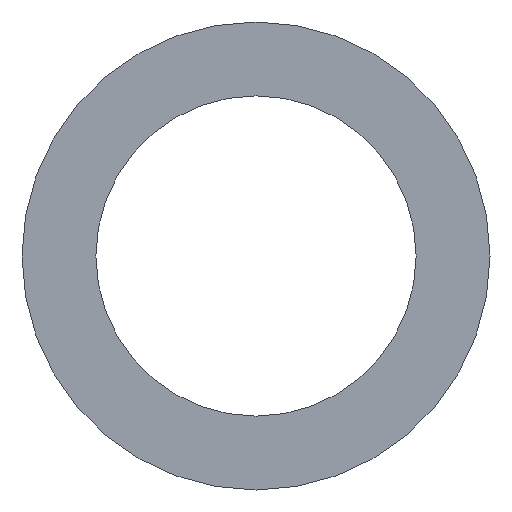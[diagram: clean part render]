
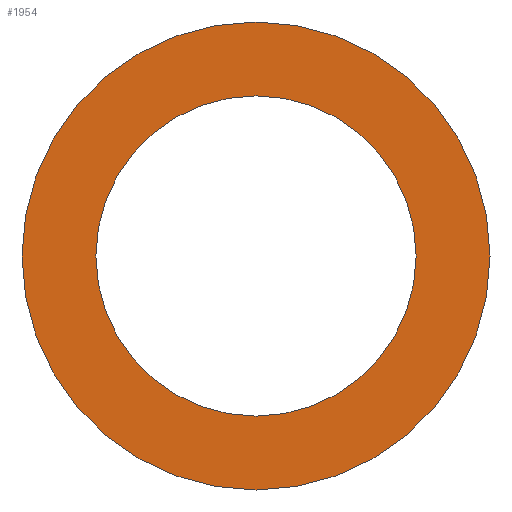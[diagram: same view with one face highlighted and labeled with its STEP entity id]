
A CAD part, front view. The second image highlights one B-rep face of the part: STEP entity #1954.
In plain terms, the highlighted planar face has unit normal (0, -1, 0).
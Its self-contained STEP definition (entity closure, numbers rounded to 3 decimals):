
#34 = DIRECTION ( 'NONE',  ( 0., -1., 0. ) ) ;
#133 = DIRECTION ( 'NONE',  ( 0., -1., 0. ) ) ;
#177 = VERTEX_POINT ( 'NONE', #662 ) ;
#383 = EDGE_CURVE ( 'NONE', #2107, #826, #1400, .T. ) ;
#394 = DIRECTION ( 'NONE',  ( 0., -1., 0. ) ) ;
#454 = CARTESIAN_POINT ( 'NONE',  ( 0., -16.5, 47.5 ) ) ;
#534 = CIRCLE ( 'NONE', #2429, 32.5 ) ;
#537 = DIRECTION ( 'NONE',  ( 0., 0., 1. ) ) ;
#612 = CARTESIAN_POINT ( 'NONE',  ( 0., -16.5, 0. ) ) ;
#662 = CARTESIAN_POINT ( 'NONE',  ( 0., -16.5, -32.5 ) ) ;
#708 = PLANE ( 'NONE',  #3230 ) ;
#731 = CARTESIAN_POINT ( 'NONE',  ( 0., -16.5, 0. ) ) ;
#826 = VERTEX_POINT ( 'NONE', #454 ) ;
#882 = CARTESIAN_POINT ( 'NONE',  ( 0., -16.5, -47.5 ) ) ;
#967 = EDGE_LOOP ( 'NONE', ( #1113, #3755 ) ) ;
#1030 = FACE_OUTER_BOUND ( 'NONE', #967, .T. ) ;
#1057 = DIRECTION ( 'NONE',  ( 0., 0., -1. ) ) ;
#1094 = ORIENTED_EDGE ( 'NONE', *, *, #2460, .F. ) ;
#1113 = ORIENTED_EDGE ( 'NONE', *, *, #383, .T. ) ;
#1222 = EDGE_CURVE ( 'NONE', #177, #3378, #3967, .T. ) ;
#1400 = CIRCLE ( 'NONE', #1818, 47.5 ) ;
#1638 = DIRECTION ( 'NONE',  ( 0., 0., -1. ) ) ;
#1656 = CARTESIAN_POINT ( 'NONE',  ( 0., -16.5, 32.5 ) ) ;
#1818 = AXIS2_PLACEMENT_3D ( 'NONE', #731, #133, #1057 ) ;
#1891 = EDGE_LOOP ( 'NONE', ( #4116, #1094 ) ) ;
#1954 = ADVANCED_FACE ( 'NONE', ( #2332, #1030 ), #708, .F. ) ;
#2107 = VERTEX_POINT ( 'NONE', #882 ) ;
#2235 = DIRECTION ( 'NONE',  ( 0., 0., -1. ) ) ;
#2332 = FACE_BOUND ( 'NONE', #1891, .T. ) ;
#2429 = AXIS2_PLACEMENT_3D ( 'NONE', #3360, #3029, #3337 ) ;
#2460 = EDGE_CURVE ( 'NONE', #3378, #177, #534, .T. ) ;
#2566 = CARTESIAN_POINT ( 'NONE',  ( 0., -16.5, 32.5 ) ) ;
#2932 = CIRCLE ( 'NONE', #3646, 47.5 ) ;
#3029 = DIRECTION ( 'NONE',  ( 0., -1., 0. ) ) ;
#3230 = AXIS2_PLACEMENT_3D ( 'NONE', #1656, #3707, #537 ) ;
#3337 = DIRECTION ( 'NONE',  ( 0., 0., -1. ) ) ;
#3360 = CARTESIAN_POINT ( 'NONE',  ( 0., -16.5, 0. ) ) ;
#3378 = VERTEX_POINT ( 'NONE', #2566 ) ;
#3602 = CARTESIAN_POINT ( 'NONE',  ( 0., -16.5, 0. ) ) ;
#3646 = AXIS2_PLACEMENT_3D ( 'NONE', #3602, #394, #1638 ) ;
#3707 = DIRECTION ( 'NONE',  ( 0., 1., 0. ) ) ;
#3755 = ORIENTED_EDGE ( 'NONE', *, *, #3908, .T. ) ;
#3890 = AXIS2_PLACEMENT_3D ( 'NONE', #612, #34, #2235 ) ;
#3908 = EDGE_CURVE ( 'NONE', #826, #2107, #2932, .T. ) ;
#3967 = CIRCLE ( 'NONE', #3890, 32.5 ) ;
#4116 = ORIENTED_EDGE ( 'NONE', *, *, #1222, .F. ) ;
